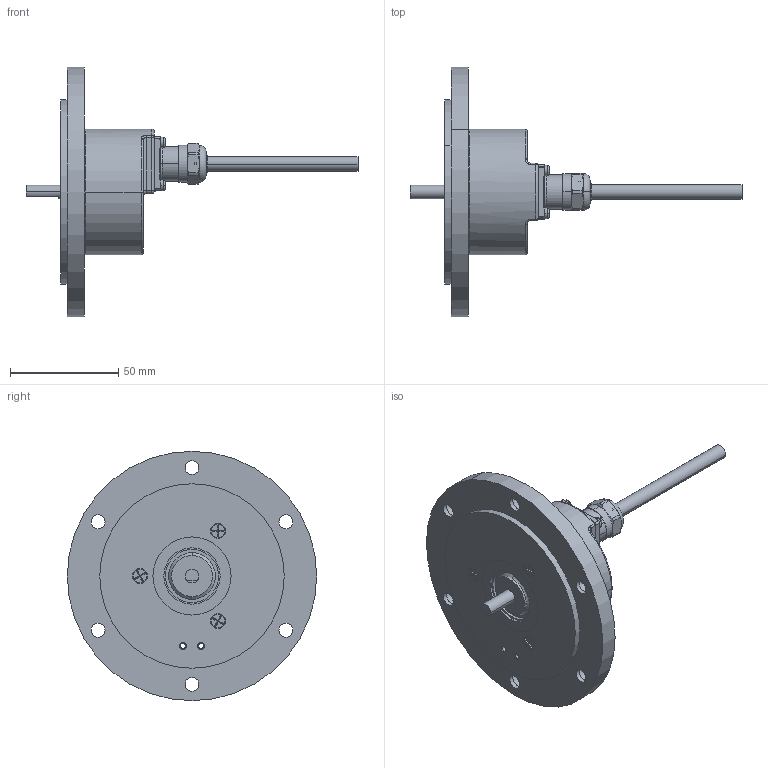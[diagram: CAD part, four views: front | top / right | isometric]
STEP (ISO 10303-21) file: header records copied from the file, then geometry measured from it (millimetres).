
FILE_DESCRIPTION (( 'STEP AP203' ), '1' );
FILE_NAME ('K58I.OXX.XXXXX.XS1E51A.6XA11.XXXX.step', '2025-12-08T16:07:59', ( '' ), ( '' ), 'SwSTEP 2.0', 'SolidWorks 2021', '' );
FILE_SCHEMA (( 'CONFIG_CONTROL_DESIGN' ));
Length unit declared in the file: millimetre
Products named in the file (1): K58I.OXX.XXXXX.XS1E51A.6XA11.XXXX
Bounding box: 153.06 x 115 x 115 mm (x, y, z)
Volume: 216668.8 mm3; surface area: 58850.8 mm2
Topology: 9 solids, 9 shells, 630 faces, 1545 edges, 964 vertices
Faces by surface type: cylinder 275, plane 188, cone 66, bspline 42, torus 41, sphere 18
Entity records: 20561 total; most frequent: CARTESIAN_POINT 5588, DIRECTION 3226, ORIENTED_EDGE 3066, EDGE_CURVE 1533, AXIS2_PLACEMENT_3D 1268, VERTEX_POINT 964, EDGE_LOOP 703, LINE 690
